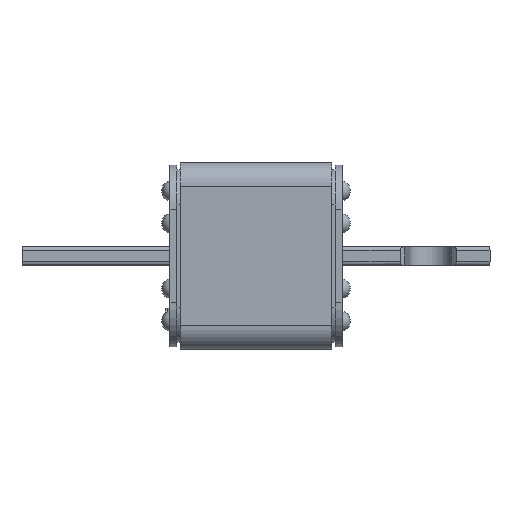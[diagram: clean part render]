
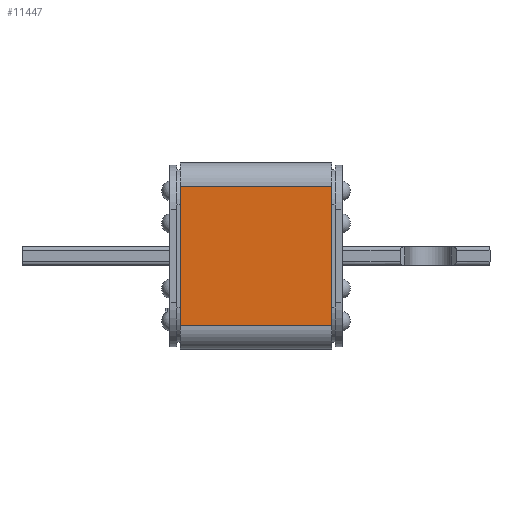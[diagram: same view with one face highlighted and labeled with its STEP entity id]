
A CAD part, front view. The second image highlights one B-rep face of the part: STEP entity #11447.
In plain terms, the highlighted planar face has unit normal (0, -1, 0).
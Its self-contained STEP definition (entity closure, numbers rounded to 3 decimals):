
#1150 = VERTEX_POINT ( 'NONE', #10901 ) ;
#1327 = VECTOR ( 'NONE', #4941, 1000. ) ;
#1387 = FACE_OUTER_BOUND ( 'NONE', #8906, .T. ) ;
#1403 = CARTESIAN_POINT ( 'NONE',  ( -32., -40., 30. ) ) ;
#1424 = LINE ( 'NONE', #10582, #11317 ) ;
#1739 = AXIS2_PLACEMENT_3D ( 'NONE', #1403, #9307, #7946 ) ;
#2896 = DIRECTION ( 'NONE',  ( 0., 0., 1. ) ) ;
#4941 = DIRECTION ( 'NONE',  ( 1., 0., 0. ) ) ;
#5026 = ORIENTED_EDGE ( 'NONE', *, *, #12380, .F. ) ;
#5218 = LINE ( 'NONE', #9882, #16306 ) ;
#6993 = VERTEX_POINT ( 'NONE', #16662 ) ;
#7035 = PLANE ( 'NONE',  #1739 ) ;
#7861 = LINE ( 'NONE', #13816, #16084 ) ;
#7946 = DIRECTION ( 'NONE',  ( 0., 0., -1. ) ) ;
#8584 = CARTESIAN_POINT ( 'NONE',  ( 33., -40., -30. ) ) ;
#8811 = LINE ( 'NONE', #12668, #1327 ) ;
#8906 = EDGE_LOOP ( 'NONE', ( #9624, #5026, #12344, #14095 ) ) ;
#9307 = DIRECTION ( 'NONE',  ( 0., 1., 0. ) ) ;
#9624 = ORIENTED_EDGE ( 'NONE', *, *, #13428, .T. ) ;
#9882 = CARTESIAN_POINT ( 'NONE',  ( -32., -40., 30. ) ) ;
#10582 = CARTESIAN_POINT ( 'NONE',  ( 33., -40., 30. ) ) ;
#10901 = CARTESIAN_POINT ( 'NONE',  ( -32., -40., -30. ) ) ;
#11317 = VECTOR ( 'NONE', #2896, 1000. ) ;
#11447 = ADVANCED_FACE ( 'NONE', ( #1387 ), #7035, .F. ) ;
#11487 = CARTESIAN_POINT ( 'NONE',  ( -32., -40., 30. ) ) ;
#12307 = VERTEX_POINT ( 'NONE', #8584 ) ;
#12344 = ORIENTED_EDGE ( 'NONE', *, *, #15762, .F. ) ;
#12380 = EDGE_CURVE ( 'NONE', #16477, #6993, #7861, .T. ) ;
#12574 = DIRECTION ( 'NONE',  ( 1., 0., 0. ) ) ;
#12668 = CARTESIAN_POINT ( 'NONE',  ( -32., -40., -30. ) ) ;
#13428 = EDGE_CURVE ( 'NONE', #12307, #6993, #1424, .T. ) ;
#13816 = CARTESIAN_POINT ( 'NONE',  ( -32., -40., 30. ) ) ;
#14095 = ORIENTED_EDGE ( 'NONE', *, *, #14331, .T. ) ;
#14331 = EDGE_CURVE ( 'NONE', #1150, #12307, #8811, .T. ) ;
#15762 = EDGE_CURVE ( 'NONE', #1150, #16477, #5218, .T. ) ;
#16084 = VECTOR ( 'NONE', #12574, 1000. ) ;
#16306 = VECTOR ( 'NONE', #16332, 1000. ) ;
#16332 = DIRECTION ( 'NONE',  ( 0., 0., 1. ) ) ;
#16477 = VERTEX_POINT ( 'NONE', #11487 ) ;
#16662 = CARTESIAN_POINT ( 'NONE',  ( 33., -40., 30. ) ) ;
